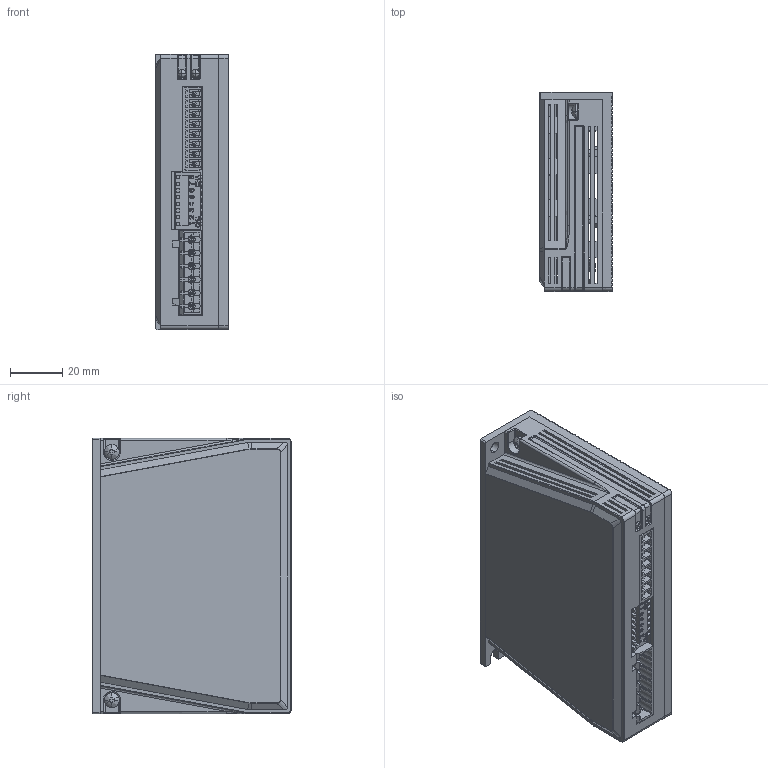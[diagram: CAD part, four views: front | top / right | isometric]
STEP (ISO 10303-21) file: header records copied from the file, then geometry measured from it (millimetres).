
FILE_DESCRIPTION(/* description */ (''),/* implementation_level */ '2;1');
FILE_NAME(/* name */ 'DP3L1-~2',/* time_stamp */ '2023-07-25T10:56:19+08:00',/* author */ (''),/* organization */ (''),/* preprocessor_version */ 'ST-DEVELOPER v15',/* originating_system */ '',/* authorisation */ '');
FILE_SCHEMA (('AUTOMOTIVE_DESIGN'));
Products named in the file (1): Document
Bounding box: 27.8 x 75.8 x 105 mm (x, y, z)
Surface area: 58242.4 mm2 (no closed solid volume)
Topology: 0 solids, 3615 shells, 3615 faces, 20670 edges, 20662 vertices
Faces by surface type: plane 2894, bspline 721
Entity records: 199897 total; most frequent: CARTESIAN_POINT 88459, ORIENTED_EDGE 20665, EDGE_CURVE 20665, VERTEX_POINT 20665, B_SPLINE_CURVE_WITH_KNOTS 18539, EDGE_LOOP 3817, PRESENTATION_LAYER_ASSIGNMENT 3615, SHELL_BASED_SURFACE_MODEL 3615
